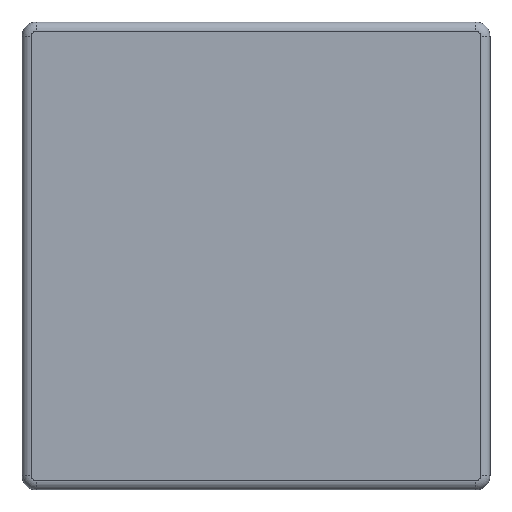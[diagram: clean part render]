
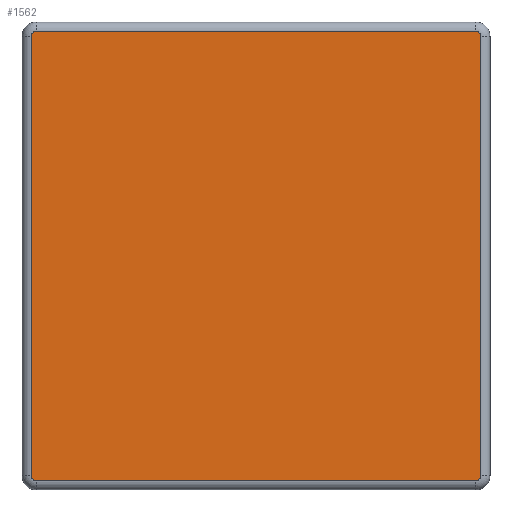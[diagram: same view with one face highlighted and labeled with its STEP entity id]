
A CAD part, front view. The second image highlights one B-rep face of the part: STEP entity #1562.
In plain terms, the highlighted planar face has unit normal (0, -1, 0).
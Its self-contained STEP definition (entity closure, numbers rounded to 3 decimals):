
#15 = EDGE_CURVE ( 'NONE', #2183, #701, #2254, .T. ) ;
#37 = DIRECTION ( 'NONE',  ( 0., -1., 0. ) ) ;
#59 = CARTESIAN_POINT ( 'NONE',  ( 69.448, 0., 24.812 ) ) ;
#206 = VERTEX_POINT ( 'NONE', #667 ) ;
#227 = CARTESIAN_POINT ( 'NONE',  ( 68.448, 0., 24.812 ) ) ;
#228 = CARTESIAN_POINT ( 'NONE',  ( -25.552, 0., 24.812 ) ) ;
#255 = FACE_OUTER_BOUND ( 'NONE', #1998, .T. ) ;
#291 = AXIS2_PLACEMENT_3D ( 'NONE', #1725, #37, #2012 ) ;
#330 = CARTESIAN_POINT ( 'NONE',  ( -25.552, 0., 25.812 ) ) ;
#403 = ORIENTED_EDGE ( 'NONE', *, *, #638, .T. ) ;
#470 = CARTESIAN_POINT ( 'NONE',  ( 0., 0., 0. ) ) ;
#492 = VERTEX_POINT ( 'NONE', #330 ) ;
#506 = DIRECTION ( 'NONE',  ( 0., 0., 1. ) ) ;
#507 = DIRECTION ( 'NONE',  ( 0., 0., 1. ) ) ;
#572 = ORIENTED_EDGE ( 'NONE', *, *, #765, .T. ) ;
#638 = EDGE_CURVE ( 'NONE', #206, #2183, #1900, .T. ) ;
#667 = CARTESIAN_POINT ( 'NONE',  ( 68.448, 0., -70.188 ) ) ;
#700 = ORIENTED_EDGE ( 'NONE', *, *, #2243, .T. ) ;
#701 = VERTEX_POINT ( 'NONE', #59 ) ;
#765 = EDGE_CURVE ( 'NONE', #1929, #1808, #3125, .T. ) ;
#793 = VECTOR ( 'NONE', #1609, 1000. ) ;
#868 = VERTEX_POINT ( 'NONE', #3049 ) ;
#1050 = CARTESIAN_POINT ( 'NONE',  ( -25.552, 0., -69.188 ) ) ;
#1106 = EDGE_CURVE ( 'NONE', #2256, #206, #3489, .T. ) ;
#1132 = CARTESIAN_POINT ( 'NONE',  ( 0., 0., 25.812 ) ) ;
#1346 = DIRECTION ( 'NONE',  ( 0., 0., 1. ) ) ;
#1475 = AXIS2_PLACEMENT_3D ( 'NONE', #1050, #3012, #1346 ) ;
#1510 = VECTOR ( 'NONE', #2548, 1000. ) ;
#1554 = EDGE_CURVE ( 'NONE', #1808, #2256, #3341, .T. ) ;
#1562 = ADVANCED_FACE ( 'NONE', ( #255 ), #3298, .F. ) ;
#1608 = EDGE_CURVE ( 'NONE', #492, #1929, #3072, .T. ) ;
#1609 = DIRECTION ( 'NONE',  ( 0., 0., -1. ) ) ;
#1622 = DIRECTION ( 'NONE',  ( 0., 1., 0. ) ) ;
#1690 = CARTESIAN_POINT ( 'NONE',  ( -25.552, 0., -70.188 ) ) ;
#1725 = CARTESIAN_POINT ( 'NONE',  ( 68.448, 0., -69.188 ) ) ;
#1808 = VERTEX_POINT ( 'NONE', #2957 ) ;
#1847 = AXIS2_PLACEMENT_3D ( 'NONE', #228, #2211, #507 ) ;
#1900 = CIRCLE ( 'NONE', #291, 1. ) ;
#1929 = VERTEX_POINT ( 'NONE', #2196 ) ;
#1998 = EDGE_LOOP ( 'NONE', ( #700, #2537, #572, #2441, #2976, #403, #2829, #2232 ) ) ;
#2012 = DIRECTION ( 'NONE',  ( 0., 0., 1. ) ) ;
#2041 = AXIS2_PLACEMENT_3D ( 'NONE', #470, #1622, #3598 ) ;
#2183 = VERTEX_POINT ( 'NONE', #2708 ) ;
#2196 = CARTESIAN_POINT ( 'NONE',  ( -26.552, 0., 24.812 ) ) ;
#2210 = DIRECTION ( 'NONE',  ( 0., -1., 0. ) ) ;
#2211 = DIRECTION ( 'NONE',  ( 0., -1., 0. ) ) ;
#2232 = ORIENTED_EDGE ( 'NONE', *, *, #3030, .T. ) ;
#2243 = EDGE_CURVE ( 'NONE', #868, #492, #2676, .T. ) ;
#2254 = LINE ( 'NONE', #2831, #1510 ) ;
#2256 = VERTEX_POINT ( 'NONE', #1690 ) ;
#2441 = ORIENTED_EDGE ( 'NONE', *, *, #1554, .T. ) ;
#2537 = ORIENTED_EDGE ( 'NONE', *, *, #1608, .T. ) ;
#2548 = DIRECTION ( 'NONE',  ( 0., 0., 1. ) ) ;
#2636 = CIRCLE ( 'NONE', #3115, 1. ) ;
#2676 = LINE ( 'NONE', #1132, #3425 ) ;
#2708 = CARTESIAN_POINT ( 'NONE',  ( 69.448, 0., -69.188 ) ) ;
#2735 = VECTOR ( 'NONE', #3661, 1000. ) ;
#2829 = ORIENTED_EDGE ( 'NONE', *, *, #15, .T. ) ;
#2831 = CARTESIAN_POINT ( 'NONE',  ( 69.448, 0., 0. ) ) ;
#2957 = CARTESIAN_POINT ( 'NONE',  ( -26.552, 0., -69.188 ) ) ;
#2976 = ORIENTED_EDGE ( 'NONE', *, *, #1106, .T. ) ;
#3012 = DIRECTION ( 'NONE',  ( 0., -1., 0. ) ) ;
#3030 = EDGE_CURVE ( 'NONE', #701, #868, #2636, .T. ) ;
#3049 = CARTESIAN_POINT ( 'NONE',  ( 68.448, 0., 25.812 ) ) ;
#3066 = CARTESIAN_POINT ( 'NONE',  ( 0., 0., -70.188 ) ) ;
#3072 = CIRCLE ( 'NONE', #1847, 1. ) ;
#3089 = DIRECTION ( 'NONE',  ( -1., 0., 0. ) ) ;
#3115 = AXIS2_PLACEMENT_3D ( 'NONE', #227, #2210, #506 ) ;
#3125 = LINE ( 'NONE', #3577, #793 ) ;
#3298 = PLANE ( 'NONE',  #2041 ) ;
#3341 = CIRCLE ( 'NONE', #1475, 1. ) ;
#3425 = VECTOR ( 'NONE', #3089, 1000. ) ;
#3489 = LINE ( 'NONE', #3066, #2735 ) ;
#3577 = CARTESIAN_POINT ( 'NONE',  ( -26.552, 0., 0. ) ) ;
#3598 = DIRECTION ( 'NONE',  ( 0., 0., 1. ) ) ;
#3661 = DIRECTION ( 'NONE',  ( 1., 0., 0. ) ) ;
